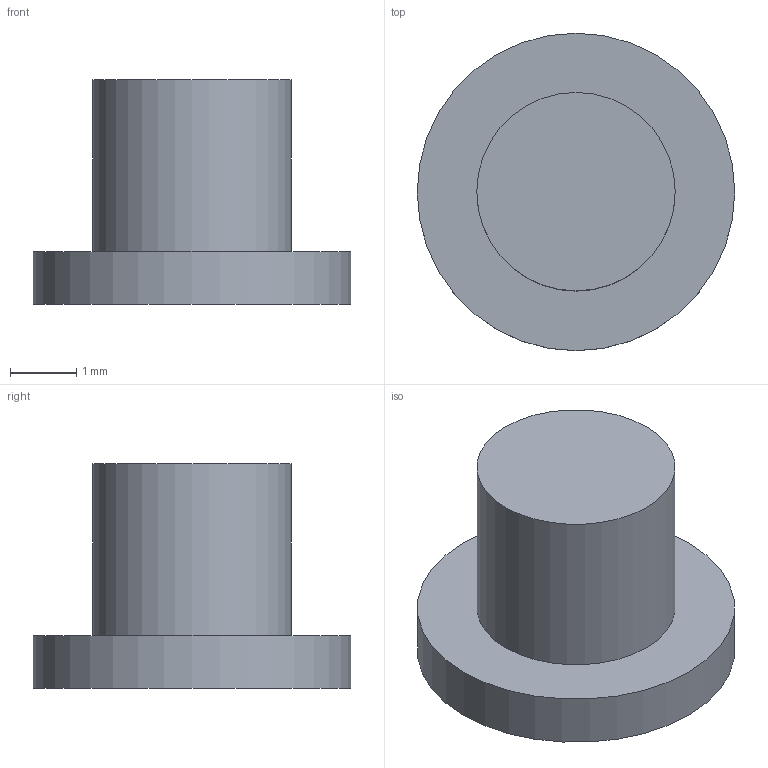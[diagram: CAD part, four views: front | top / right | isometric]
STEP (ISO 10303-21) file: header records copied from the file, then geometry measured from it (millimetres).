
FILE_DESCRIPTION(('Open CASCADE Model'),'2;1');
FILE_NAME('Open CASCADE Shape Model','2026-11-15T10:52:12',('Author'),( 'Open CASCADE'),'Open CASCADE STEP processor 7.8','Open CASCADE 7.8' ,'Unknown');
FILE_SCHEMA(('AUTOMOTIVE_DESIGN { 1 0 10303 214 1 1 1 1 }'));
Length unit declared in the file: millimetre
Products named in the file (1): Open CASCADE STEP translator 7.8 6
Bounding box: 4.8 x 4.8 x 3.4 mm (x, y, z)
Volume: 32.9 mm3; surface area: 72.8 mm2
Topology: 1 solids, 1 shells, 5 faces, 6 edges, 4 vertices
Faces by surface type: plane 3, cylinder 2
Full cylindrical faces by diameter (mm): 3 x1, 4.8 x1
Entity records: 204 total; most frequent: CARTESIAN_POINT 52, DIRECTION 30, ORIENTED_EDGE 12, PCURVE 12, DEFINITIONAL_REPRESENTATION 12, AXIS2_PLACEMENT_3D 10, LINE 10, VECTOR 10
